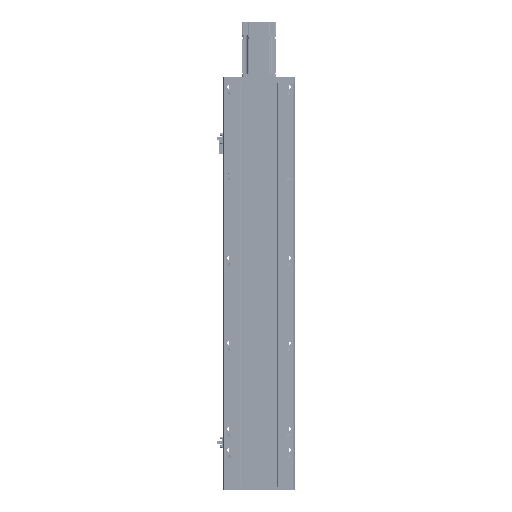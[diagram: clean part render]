
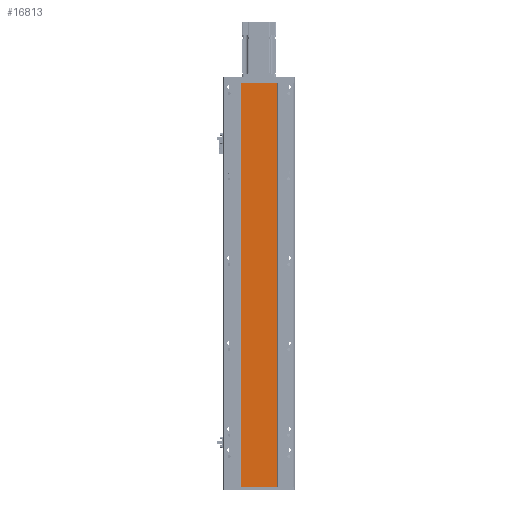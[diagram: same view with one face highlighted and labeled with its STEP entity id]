
A CAD part, front view. The second image highlights one B-rep face of the part: STEP entity #16813.
In plain terms, the highlighted planar face has unit normal (0, -1, 0).
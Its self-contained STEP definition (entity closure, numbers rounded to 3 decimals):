
#902 = VERTEX_POINT ( 'NONE', #37568 ) ;
#1142 = CARTESIAN_POINT ( 'NONE',  ( -42., 0., -945. ) ) ;
#1177 = CARTESIAN_POINT ( 'NONE',  ( -42., 0., -945. ) ) ;
#4954 = LINE ( 'NONE', #56250, #48358 ) ;
#6924 = CARTESIAN_POINT ( 'NONE',  ( 42., 0., -945. ) ) ;
#9400 = DIRECTION ( 'NONE',  ( 1., 0., 0. ) ) ;
#12919 = LINE ( 'NONE', #19976, #75507 ) ;
#13872 = ORIENTED_EDGE ( 'NONE', *, *, #97090, .F. ) ;
#16023 = EDGE_LOOP ( 'NONE', ( #89327, #13872, #58825, #62612 ) ) ;
#16441 = VERTEX_POINT ( 'NONE', #85836 ) ;
#16813 = ADVANCED_FACE ( 'NONE', ( #80586 ), #49703, .T. ) ;
#18287 = EDGE_CURVE ( 'NONE', #16441, #902, #75429, .T. ) ;
#19976 = CARTESIAN_POINT ( 'NONE',  ( -42., 0., -945. ) ) ;
#37568 = CARTESIAN_POINT ( 'NONE',  ( 42., 0., 0. ) ) ;
#38683 = VECTOR ( 'NONE', #9400, 1000. ) ;
#48017 = CARTESIAN_POINT ( 'NONE',  ( -42., 0., -945. ) ) ;
#48358 = VECTOR ( 'NONE', #64466, 1000. ) ;
#49703 = PLANE ( 'NONE',  #75866 ) ;
#52450 = DIRECTION ( 'NONE',  ( 0., 0., 1. ) ) ;
#56250 = CARTESIAN_POINT ( 'NONE',  ( -42., 0., 0. ) ) ;
#58825 = ORIENTED_EDGE ( 'NONE', *, *, #65514, .T. ) ;
#60367 = LINE ( 'NONE', #1177, #38683 ) ;
#60427 = VERTEX_POINT ( 'NONE', #105439 ) ;
#61389 = VECTOR ( 'NONE', #64378, 1000. ) ;
#62612 = ORIENTED_EDGE ( 'NONE', *, *, #18287, .T. ) ;
#64378 = DIRECTION ( 'NONE',  ( 0., 0., 1. ) ) ;
#64466 = DIRECTION ( 'NONE',  ( 1., 0., 0. ) ) ;
#65514 = EDGE_CURVE ( 'NONE', #100977, #16441, #60367, .T. ) ;
#66453 = DIRECTION ( 'NONE',  ( 0., 0., -1. ) ) ;
#74384 = EDGE_CURVE ( 'NONE', #60427, #902, #4954, .T. ) ;
#75429 = LINE ( 'NONE', #6924, #61389 ) ;
#75507 = VECTOR ( 'NONE', #52450, 1000. ) ;
#75866 = AXIS2_PLACEMENT_3D ( 'NONE', #1142, #90747, #66453 ) ;
#80586 = FACE_OUTER_BOUND ( 'NONE', #16023, .T. ) ;
#85836 = CARTESIAN_POINT ( 'NONE',  ( 42., 0., -945. ) ) ;
#89327 = ORIENTED_EDGE ( 'NONE', *, *, #74384, .F. ) ;
#90747 = DIRECTION ( 'NONE',  ( 0., -1., 0. ) ) ;
#97090 = EDGE_CURVE ( 'NONE', #100977, #60427, #12919, .T. ) ;
#100977 = VERTEX_POINT ( 'NONE', #48017 ) ;
#105439 = CARTESIAN_POINT ( 'NONE',  ( -42., 0., 0. ) ) ;
